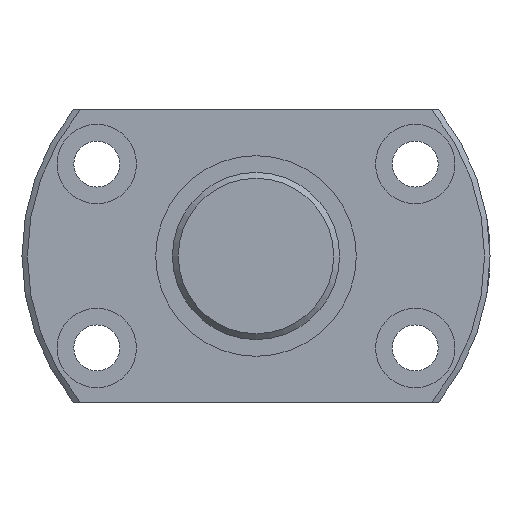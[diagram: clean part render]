
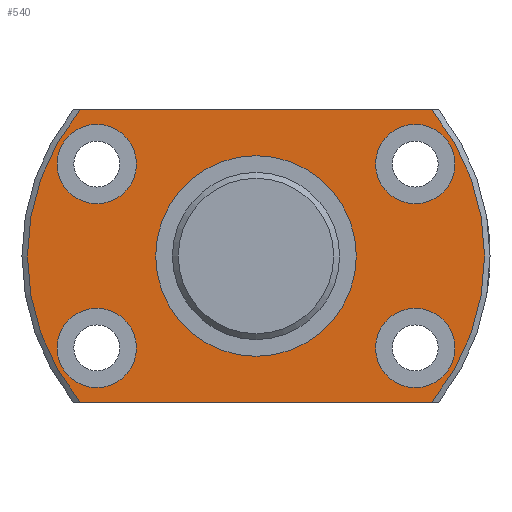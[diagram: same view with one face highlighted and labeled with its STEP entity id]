
A CAD part, left-side view. The second image highlights one B-rep face of the part: STEP entity #540.
In plain terms, the highlighted planar face has unit normal (-1, 0, 0).
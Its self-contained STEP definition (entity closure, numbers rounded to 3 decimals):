
#28=LINE('',#893,#36);
#29=LINE('',#898,#37);
#36=VECTOR('',#721,1000.);
#37=VECTOR('',#724,1000.);
#91=ORIENTED_EDGE('',*,*,#207,.T.);
#92=ORIENTED_EDGE('',*,*,#208,.T.);
#93=ORIENTED_EDGE('',*,*,#209,.T.);
#94=ORIENTED_EDGE('',*,*,#210,.T.);
#95=ORIENTED_EDGE('',*,*,#211,.T.);
#96=ORIENTED_EDGE('',*,*,#212,.F.);
#97=ORIENTED_EDGE('',*,*,#213,.T.);
#98=ORIENTED_EDGE('',*,*,#214,.F.);
#99=ORIENTED_EDGE('',*,*,#215,.T.);
#207=EDGE_CURVE('',#267,#267,#319,.T.);
#208=EDGE_CURVE('',#268,#268,#320,.T.);
#209=EDGE_CURVE('',#269,#269,#321,.T.);
#210=EDGE_CURVE('',#270,#270,#322,.T.);
#211=EDGE_CURVE('',#271,#271,#323,.T.);
#212=EDGE_CURVE('',#272,#273,#28,.T.);
#213=EDGE_CURVE('',#272,#274,#324,.F.);
#214=EDGE_CURVE('',#275,#274,#29,.T.);
#215=EDGE_CURVE('',#275,#273,#325,.F.);
#267=VERTEX_POINT('',#884);
#268=VERTEX_POINT('',#886);
#269=VERTEX_POINT('',#888);
#270=VERTEX_POINT('',#890);
#271=VERTEX_POINT('',#892);
#272=VERTEX_POINT('',#894);
#273=VERTEX_POINT('',#895);
#274=VERTEX_POINT('',#897);
#275=VERTEX_POINT('',#899);
#319=CIRCLE('',#613,12.);
#320=CIRCLE('',#614,4.75);
#321=CIRCLE('',#615,4.75);
#322=CIRCLE('',#616,4.75);
#323=CIRCLE('',#617,4.75);
#324=CIRCLE('',#618,27.35);
#325=CIRCLE('',#619,27.35);
#365=EDGE_LOOP('',(#91));
#366=EDGE_LOOP('',(#92));
#367=EDGE_LOOP('',(#93));
#368=EDGE_LOOP('',(#94));
#369=EDGE_LOOP('',(#95));
#370=EDGE_LOOP('',(#96,#97,#98,#99));
#447=FACE_BOUND('',#365,.T.);
#448=FACE_BOUND('',#366,.T.);
#449=FACE_BOUND('',#367,.T.);
#450=FACE_BOUND('',#368,.T.);
#451=FACE_BOUND('',#369,.T.);
#452=FACE_BOUND('',#370,.T.);
#523=PLANE('',#612);
#540=ADVANCED_FACE('',(#447,#448,#449,#450,#451,#452),#523,.F.);
#612=AXIS2_PLACEMENT_3D('',#882,#709,#710);
#613=AXIS2_PLACEMENT_3D('',#883,#711,#712);
#614=AXIS2_PLACEMENT_3D('',#885,#713,#714);
#615=AXIS2_PLACEMENT_3D('',#887,#715,#716);
#616=AXIS2_PLACEMENT_3D('',#889,#717,#718);
#617=AXIS2_PLACEMENT_3D('',#891,#719,#720);
#618=AXIS2_PLACEMENT_3D('',#896,#722,#723);
#619=AXIS2_PLACEMENT_3D('',#900,#725,#726);
#709=DIRECTION('',(1.,0.,0.));
#710=DIRECTION('',(0.,0.,-1.));
#711=DIRECTION('',(1.,0.,0.));
#712=DIRECTION('',(0.,0.,-1.));
#713=DIRECTION('',(1.,0.,0.));
#714=DIRECTION('',(0.,0.,-1.));
#715=DIRECTION('',(1.,0.,0.));
#716=DIRECTION('',(0.,0.,-1.));
#717=DIRECTION('',(1.,0.,0.));
#718=DIRECTION('',(0.,0.,-1.));
#719=DIRECTION('',(1.,0.,0.));
#720=DIRECTION('',(0.,0.,-1.));
#721=DIRECTION('',(0.,1.,0.));
#722=DIRECTION('',(1.,0.,0.));
#723=DIRECTION('',(0.,0.,-1.));
#724=DIRECTION('',(0.,-1.,0.));
#725=DIRECTION('',(1.,0.,0.));
#726=DIRECTION('',(0.,0.,-1.));
#882=CARTESIAN_POINT('',(0.,0.,0.));
#883=CARTESIAN_POINT('',(0.,0.,0.));
#884=CARTESIAN_POINT('',(0.,0.,-12.));
#885=CARTESIAN_POINT('',(0.,19.053,-11.));
#886=CARTESIAN_POINT('',(0.,19.053,-15.75));
#887=CARTESIAN_POINT('',(0.,-19.053,11.));
#888=CARTESIAN_POINT('',(0.,-19.053,6.25));
#889=CARTESIAN_POINT('',(0.,-19.053,-11.));
#890=CARTESIAN_POINT('',(0.,-19.053,-15.75));
#891=CARTESIAN_POINT('',(0.,19.053,11.));
#892=CARTESIAN_POINT('',(0.,19.053,6.25));
#893=CARTESIAN_POINT('',(0.,-21.857,-17.5));
#894=CARTESIAN_POINT('',(0.,-21.018,-17.5));
#895=CARTESIAN_POINT('',(0.,21.018,-17.5));
#896=CARTESIAN_POINT('',(0.,0.,0.));
#897=CARTESIAN_POINT('',(0.,-21.018,17.5));
#898=CARTESIAN_POINT('',(0.,21.857,17.5));
#899=CARTESIAN_POINT('',(0.,21.018,17.5));
#900=CARTESIAN_POINT('',(0.,0.,0.));
